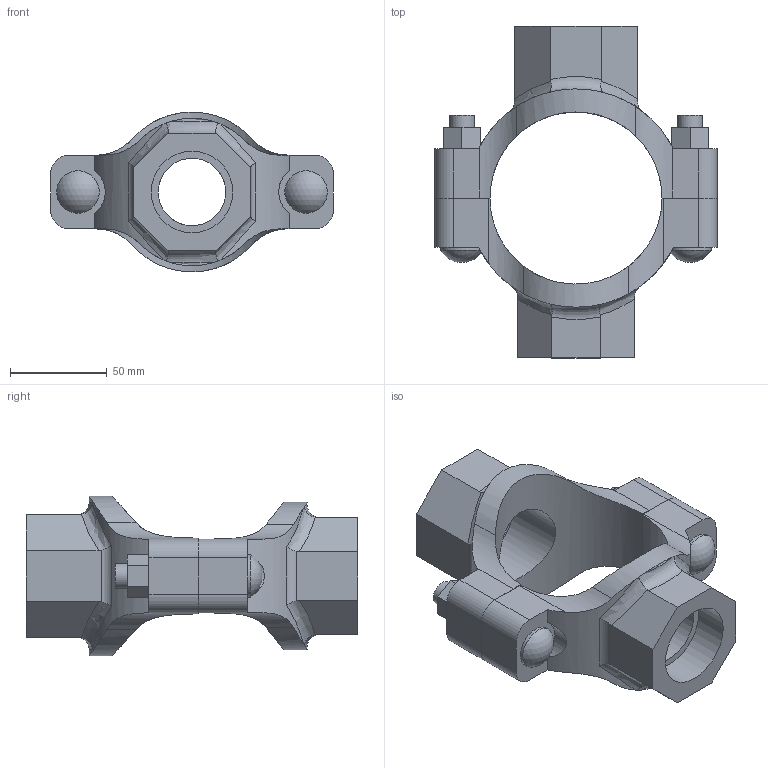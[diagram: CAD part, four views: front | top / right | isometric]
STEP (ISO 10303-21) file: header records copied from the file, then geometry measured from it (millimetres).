
FILE_DESCRIPTION(/* description */ ('VIC MECH-T BRANCH OUTLET CROSS STYLE 920N (THD)','CAx-IF Rec.Pracs.---Representation and Presentation of Product Manufacturing Information (PMI)---4.0---2014-10-13'),/* implementation_level */ '2;1');
FILE_NAME(/* name */ 'C:\Users\Vjadhav\AppData\Roaming\Autodesk\ApplicationPlugins\Back Up\Victaulic_IPS_Mechanical-Cross Outlet_Style 920N (FPT)\Victaulic_IPS_Mechanical-Cross Outlet_03.0x01.5x01.25 (80x40x32).stp',/* time_stamp */ '2020-08-06T18:57:42+05:00',/* author */ ('Vjadhav'),/* organization */ ('Victaulic'),/* preprocessor_version */ 'ST-DEVELOPER v17.2',/* originating_system */ 'Autodesk Inventor 2019',/* authorisation */ '');
FILE_SCHEMA (('AP242_MANAGED_MODEL_BASED_3D_ENGINEERING_MIM_LF { 1 0 10303 442 1 1 4 }'));
Length unit declared in the file: inch
Products named in the file (3): 920NT-03.0x01.5x01.25; 920NT-03.0x01.5; 920NT-03.0x01.25
Assembly tree (2 placements, depth 2):
  920NT-03.0x01.5x01.25
    920NT-03.0x01.5
    920NT-03.0x01.25
Bounding box: 146.05 x 171.45 x 82.54 mm (x, y, z)
Volume: 356665.7 mm3; surface area: 84306.3 mm2
Topology: 2 solids, 2 shells, 135 faces, 362 edges, 244 vertices
Faces by surface type: plane 68, cylinder 53, bspline 8, torus 4, sphere 2
Full cylindrical faces by diameter (mm): 12.7 x4, 21.982 x2, 34.925 x1, 41.275 x1, 42.164 x1, 48.26 x1
Entity records: 5319 total; most frequent: CARTESIAN_POINT 1728, ORIENTED_EDGE 724, DIRECTION 654, EDGE_CURVE 362, VERTEX_POINT 244, AXIS2_PLACEMENT_3D 234, LINE 186, VECTOR 186
